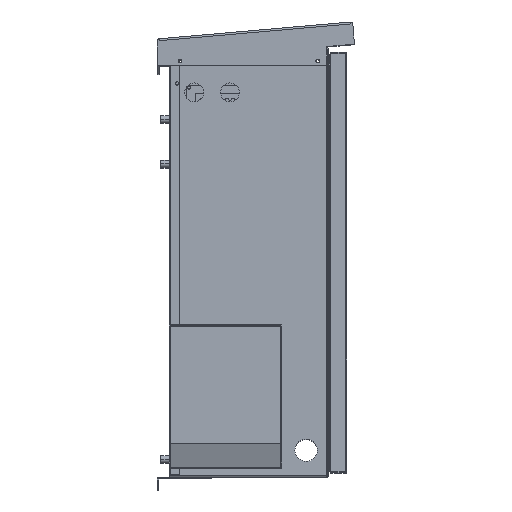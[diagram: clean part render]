
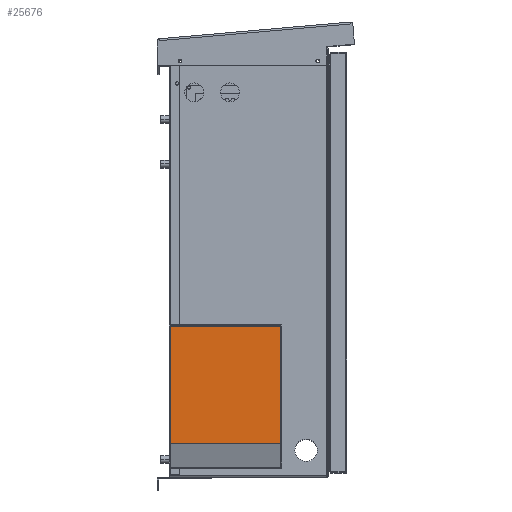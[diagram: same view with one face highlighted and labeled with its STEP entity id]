
A CAD part, top view. The second image highlights one B-rep face of the part: STEP entity #25676.
In plain terms, the highlighted planar face has unit normal (0, 0, 1) as drawn and (0, 1, 0) by its records, which use the part's own axes.
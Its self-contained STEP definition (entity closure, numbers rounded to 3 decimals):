
#946 = VECTOR ( 'NONE', #3118, 1000. ) ;
#1930 = LINE ( 'NONE', #25265, #946 ) ;
#2866 = FACE_OUTER_BOUND ( 'NONE', #31815, .T. ) ;
#2923 = VERTEX_POINT ( 'NONE', #17287 ) ;
#3118 = DIRECTION ( 'NONE',  ( 0., 0., -1. ) ) ;
#3490 = ORIENTED_EDGE ( 'NONE', *, *, #15952, .T. ) ;
#5001 = CARTESIAN_POINT ( 'NONE',  ( 132.314, 1., -61.8 ) ) ;
#6480 = EDGE_CURVE ( 'NONE', #17820, #2923, #1930, .T. ) ;
#6635 = DIRECTION ( 'NONE',  ( 1., 0., 0. ) ) ;
#7121 = AXIS2_PLACEMENT_3D ( 'NONE', #24867, #37569, #18623 ) ;
#7257 = CARTESIAN_POINT ( 'NONE',  ( 1.2, 1., -61.8 ) ) ;
#8109 = LINE ( 'NONE', #7257, #39807 ) ;
#11543 = VECTOR ( 'NONE', #6635, 1000. ) ;
#12556 = EDGE_CURVE ( 'NONE', #38061, #32574, #8109, .T. ) ;
#13041 = CARTESIAN_POINT ( 'NONE',  ( 1.2, 1., 61.8 ) ) ;
#14266 = LINE ( 'NONE', #5001, #38534 ) ;
#15952 = EDGE_CURVE ( 'NONE', #2923, #38061, #14266, .T. ) ;
#17287 = CARTESIAN_POINT ( 'NONE',  ( 132.314, 1., -61.8 ) ) ;
#17820 = VERTEX_POINT ( 'NONE', #40275 ) ;
#18623 = DIRECTION ( 'NONE',  ( 0., 0., 1. ) ) ;
#19649 = EDGE_CURVE ( 'NONE', #32574, #17820, #19965, .T. ) ;
#19852 = DIRECTION ( 'NONE',  ( 0., 0., 1. ) ) ;
#19965 = LINE ( 'NONE', #25600, #11543 ) ;
#23163 = CARTESIAN_POINT ( 'NONE',  ( 1.2, 1., -61.8 ) ) ;
#24867 = CARTESIAN_POINT ( 'NONE',  ( 0., 1., 63. ) ) ;
#25265 = CARTESIAN_POINT ( 'NONE',  ( 132.314, 1., 63. ) ) ;
#25600 = CARTESIAN_POINT ( 'NONE',  ( 0., 1., 61.8 ) ) ;
#25676 = ADVANCED_FACE ( 'NONE', ( #2866 ), #31216, .T. ) ;
#27152 = DIRECTION ( 'NONE',  ( -1., 0., 0. ) ) ;
#28543 = ORIENTED_EDGE ( 'NONE', *, *, #19649, .T. ) ;
#28642 = ORIENTED_EDGE ( 'NONE', *, *, #6480, .T. ) ;
#30380 = ORIENTED_EDGE ( 'NONE', *, *, #12556, .T. ) ;
#31216 = PLANE ( 'NONE',  #7121 ) ;
#31815 = EDGE_LOOP ( 'NONE', ( #3490, #30380, #28543, #28642 ) ) ;
#32574 = VERTEX_POINT ( 'NONE', #13041 ) ;
#37569 = DIRECTION ( 'NONE',  ( 0., 1., 0. ) ) ;
#38061 = VERTEX_POINT ( 'NONE', #23163 ) ;
#38534 = VECTOR ( 'NONE', #27152, 1000. ) ;
#39807 = VECTOR ( 'NONE', #19852, 1000. ) ;
#40275 = CARTESIAN_POINT ( 'NONE',  ( 132.314, 1., 61.8 ) ) ;
